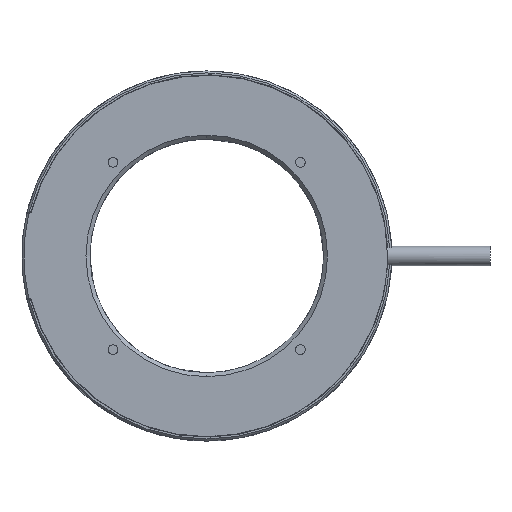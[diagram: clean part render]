
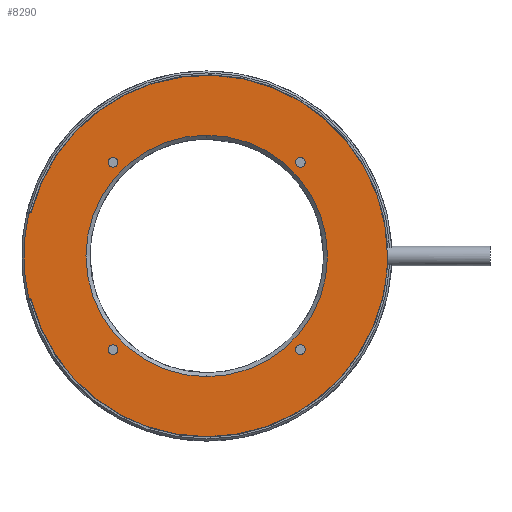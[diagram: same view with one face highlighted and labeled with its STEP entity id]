
A CAD part, top view. The second image highlights one B-rep face of the part: STEP entity #8290.
In plain terms, the highlighted planar face has unit normal (0, 0, 1).
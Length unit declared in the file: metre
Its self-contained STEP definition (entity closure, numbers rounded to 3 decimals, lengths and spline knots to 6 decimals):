
#1629=CARTESIAN_POINT('',(0.,0.,0.002));
#1630=DIRECTION('',(0.,0.,-1.));
#1631=DIRECTION('',(0.,-1.,0.));
#1632=AXIS2_PLACEMENT_3D('',#1629,#1630,#1631);
#1634=CARTESIAN_POINT('',(0.,0.,0.002));
#1635=DIRECTION('',(0.,0.,-1.));
#1636=DIRECTION('',(0.,1.,0.));
#1637=AXIS2_PLACEMENT_3D('',#1634,#1635,#1636);
#1639=CARTESIAN_POINT('',(0.024042,0.024042,0.002));
#1640=DIRECTION('',(0.,0.,-1.));
#1641=DIRECTION('',(0.,1.,0.));
#1642=AXIS2_PLACEMENT_3D('',#1639,#1640,#1641);
#1644=CARTESIAN_POINT('',(0.024042,0.024042,0.002));
#1645=DIRECTION('',(0.,0.,-1.));
#1646=DIRECTION('',(0.,-1.,0.));
#1647=AXIS2_PLACEMENT_3D('',#1644,#1645,#1646);
#1649=CARTESIAN_POINT('',(-0.024042,0.024042,0.002));
#1650=DIRECTION('',(0.,0.,-1.));
#1651=DIRECTION('',(-1.,0.,0.));
#1652=AXIS2_PLACEMENT_3D('',#1649,#1650,#1651);
#1654=CARTESIAN_POINT('',(-0.024042,0.024042,0.002));
#1655=DIRECTION('',(0.,0.,-1.));
#1656=DIRECTION('',(1.,0.,0.));
#1657=AXIS2_PLACEMENT_3D('',#1654,#1655,#1656);
#1659=CARTESIAN_POINT('',(-0.024042,-0.024042,0.002));
#1660=DIRECTION('',(0.,0.,-1.));
#1661=DIRECTION('',(0.,-1.,0.));
#1662=AXIS2_PLACEMENT_3D('',#1659,#1660,#1661);
#1664=CARTESIAN_POINT('',(-0.024042,-0.024042,0.002));
#1665=DIRECTION('',(0.,0.,-1.));
#1666=DIRECTION('',(0.,1.,0.));
#1667=AXIS2_PLACEMENT_3D('',#1664,#1665,#1666);
#1669=CARTESIAN_POINT('',(0.024042,-0.024042,0.002));
#1670=DIRECTION('',(0.,0.,-1.));
#1671=DIRECTION('',(1.,0.,0.));
#1672=AXIS2_PLACEMENT_3D('',#1669,#1670,#1671);
#1674=CARTESIAN_POINT('',(0.024042,-0.024042,0.002));
#1675=DIRECTION('',(0.,0.,-1.));
#1676=DIRECTION('',(-1.,0.,0.));
#1677=AXIS2_PLACEMENT_3D('',#1674,#1675,#1676);
#1679=CARTESIAN_POINT('',(-0.045468,0.0115,0.002));
#1680=DIRECTION('',(0.,0.,-1.));
#1681=DIRECTION('',(0.969,-0.245,0.));
#1682=AXIS2_PLACEMENT_3D('',#1679,#1680,#1681);
#1684=CARTESIAN_POINT('',(0.,0.,0.002));
#1685=DIRECTION('',(0.,0.,1.));
#1686=DIRECTION('',(1.,0.,0.));
#1687=AXIS2_PLACEMENT_3D('',#1684,#1685,#1686);
#1689=CARTESIAN_POINT('',(0.,0.,0.002));
#1690=DIRECTION('',(0.,0.,1.));
#1691=DIRECTION('',(0.969,-0.245,0.));
#1692=AXIS2_PLACEMENT_3D('',#1689,#1690,#1691);
#1694=CARTESIAN_POINT('',(0.,0.,0.002));
#1695=DIRECTION('',(0.,0.,1.));
#1696=DIRECTION('',(-0.969,-0.245,0.));
#1697=AXIS2_PLACEMENT_3D('',#1694,#1695,#1696);
#1699=CARTESIAN_POINT('',(-0.045468,-0.0115,0.002));
#1700=DIRECTION('',(0.,0.,-1.));
#1701=DIRECTION('',(0.,1.,0.));
#1702=AXIS2_PLACEMENT_3D('',#1699,#1700,#1701);
#1704=CARTESIAN_POINT('',(0.,0.,0.002));
#1705=DIRECTION('',(0.,0.,1.));
#1706=DIRECTION('',(-0.972,0.234,0.));
#1707=AXIS2_PLACEMENT_3D('',#1704,#1705,#1706);
#3691=DIRECTION('',(1.,0.,0.));
#3692=VECTOR('',#3691,0.000226);
#3693=CARTESIAN_POINT('',(-0.045695,0.011,0.002));
#3694=LINE('',#3693,#3692);
#3987=DIRECTION('',(-1.,0.,0.));
#3988=VECTOR('',#3987,0.000226);
#3989=CARTESIAN_POINT('',(-0.045468,-0.011,0.002));
#3990=LINE('',#3989,#3988);
#4725=CARTESIAN_POINT('',(-0.044983,-0.011377,0.002));
#4726=CARTESIAN_POINT('',(0.044983,-0.011377,0.002));
#4727=VERTEX_POINT('',#4725);
#4728=VERTEX_POINT('',#4726);
#4729=CARTESIAN_POINT('',(0.0464,0.,0.002));
#4730=VERTEX_POINT('',#4729);
#4731=CARTESIAN_POINT('',(-0.044983,0.011377,0.002));
#4732=VERTEX_POINT('',#4731);
#4733=CARTESIAN_POINT('',(-0.045468,-0.011,0.002));
#4734=VERTEX_POINT('',#4733);
#4735=CARTESIAN_POINT('',(-0.045695,-0.011,0.002));
#4736=VERTEX_POINT('',#4735);
#4737=CARTESIAN_POINT('',(-0.045695,0.011,0.002));
#4738=VERTEX_POINT('',#4737);
#4739=CARTESIAN_POINT('',(-0.045468,0.011,0.002));
#4740=VERTEX_POINT('',#4739);
#4741=CARTESIAN_POINT('',(0.022792,-0.024042,0.002));
#4742=CARTESIAN_POINT('',(0.025292,-0.024042,0.002));
#4743=VERTEX_POINT('',#4741);
#4744=VERTEX_POINT('',#4742);
#4745=CARTESIAN_POINT('',(-0.024042,-0.022792,0.002));
#4746=CARTESIAN_POINT('',(-0.024042,-0.025292,0.002));
#4747=VERTEX_POINT('',#4745);
#4748=VERTEX_POINT('',#4746);
#4749=CARTESIAN_POINT('',(-0.022792,0.024042,0.002));
#4750=CARTESIAN_POINT('',(-0.025292,0.024042,0.002));
#4751=VERTEX_POINT('',#4749);
#4752=VERTEX_POINT('',#4750);
#4753=CARTESIAN_POINT('',(0.024042,0.022792,0.002));
#4754=CARTESIAN_POINT('',(0.024042,0.025292,0.002));
#4755=VERTEX_POINT('',#4753);
#4756=VERTEX_POINT('',#4754);
#4757=CARTESIAN_POINT('',(0.,0.031,0.002));
#4758=CARTESIAN_POINT('',(0.,-0.031,0.002));
#4759=VERTEX_POINT('',#4757);
#4760=VERTEX_POINT('',#4758);
#8239=CARTESIAN_POINT('',(0.,0.,0.002));
#8240=DIRECTION('',(0.,0.,-1.));
#8241=DIRECTION('',(0.,1.,0.));
#8242=AXIS2_PLACEMENT_3D('',#8239,#8240,#8241);
#8243=PLANE('',#8242);
#8245=ORIENTED_EDGE('',*,*,#8244,.F.);
#8247=ORIENTED_EDGE('',*,*,#8246,.F.);
#8249=ORIENTED_EDGE('',*,*,#8248,.F.);
#8251=ORIENTED_EDGE('',*,*,#8250,.F.);
#8253=ORIENTED_EDGE('',*,*,#8252,.F.);
#8255=ORIENTED_EDGE('',*,*,#8254,.T.);
#8257=ORIENTED_EDGE('',*,*,#8256,.F.);
#8259=ORIENTED_EDGE('',*,*,#8258,.T.);
#8260=EDGE_LOOP('',(#8245,#8247,#8249,#8251,#8253,#8255,#8257,#8259));
#8261=FACE_OUTER_BOUND('',#8260,.F.);
#8263=ORIENTED_EDGE('',*,*,#8262,.F.);
#8265=ORIENTED_EDGE('',*,*,#8264,.F.);
#8266=EDGE_LOOP('',(#8263,#8265));
#8267=FACE_BOUND('',#8266,.F.);
#8269=ORIENTED_EDGE('',*,*,#8268,.F.);
#8271=ORIENTED_EDGE('',*,*,#8270,.F.);
#8272=EDGE_LOOP('',(#8269,#8271));
#8273=FACE_BOUND('',#8272,.F.);
#8275=ORIENTED_EDGE('',*,*,#8274,.F.);
#8277=ORIENTED_EDGE('',*,*,#8276,.F.);
#8278=EDGE_LOOP('',(#8275,#8277));
#8279=FACE_BOUND('',#8278,.F.);
#8281=ORIENTED_EDGE('',*,*,#8280,.F.);
#8283=ORIENTED_EDGE('',*,*,#8282,.F.);
#8284=EDGE_LOOP('',(#8281,#8283));
#8285=FACE_BOUND('',#8284,.F.);
#8286=ORIENTED_EDGE('',*,*,#8218,.F.);
#8287=ORIENTED_EDGE('',*,*,#8232,.F.);
#8288=EDGE_LOOP('',(#8286,#8287));
#8289=FACE_BOUND('',#8288,.F.);
#8290=ADVANCED_FACE('',(#8261,#8267,#8273,#8279,#8285,#8289),#8243,.F.);
#1633=CIRCLE('',#1632,0.031);
#1638=CIRCLE('',#1637,0.031);
#1643=CIRCLE('',#1642,0.00125);
#1648=CIRCLE('',#1647,0.00125);
#1653=CIRCLE('',#1652,0.00125);
#1658=CIRCLE('',#1657,0.00125);
#1663=CIRCLE('',#1662,0.00125);
#1668=CIRCLE('',#1667,0.00125);
#1673=CIRCLE('',#1672,0.00125);
#1678=CIRCLE('',#1677,0.00125);
#1683=CIRCLE('',#1682,0.0005);
#1688=CIRCLE('',#1687,0.0464);
#1693=CIRCLE('',#1692,0.0464);
#1698=CIRCLE('',#1697,0.0464);
#1703=CIRCLE('',#1702,0.0005);
#1708=CIRCLE('',#1707,0.047);
#8218=EDGE_CURVE('',#4760,#4759,#1633,.T.);
#8232=EDGE_CURVE('',#4759,#4760,#1638,.T.);
#8244=EDGE_CURVE('',#4732,#4740,#1683,.T.);
#8246=EDGE_CURVE('',#4730,#4732,#1688,.T.);
#8248=EDGE_CURVE('',#4728,#4730,#1693,.T.);
#8250=EDGE_CURVE('',#4727,#4728,#1698,.T.);
#8252=EDGE_CURVE('',#4734,#4727,#1703,.T.);
#8254=EDGE_CURVE('',#4734,#4736,#3990,.T.);
#8256=EDGE_CURVE('',#4738,#4736,#1708,.T.);
#8258=EDGE_CURVE('',#4738,#4740,#3694,.T.);
#8262=EDGE_CURVE('',#4756,#4755,#1643,.T.);
#8264=EDGE_CURVE('',#4755,#4756,#1648,.T.);
#8268=EDGE_CURVE('',#4752,#4751,#1653,.T.);
#8270=EDGE_CURVE('',#4751,#4752,#1658,.T.);
#8274=EDGE_CURVE('',#4748,#4747,#1663,.T.);
#8276=EDGE_CURVE('',#4747,#4748,#1668,.T.);
#8280=EDGE_CURVE('',#4744,#4743,#1673,.T.);
#8282=EDGE_CURVE('',#4743,#4744,#1678,.T.);
